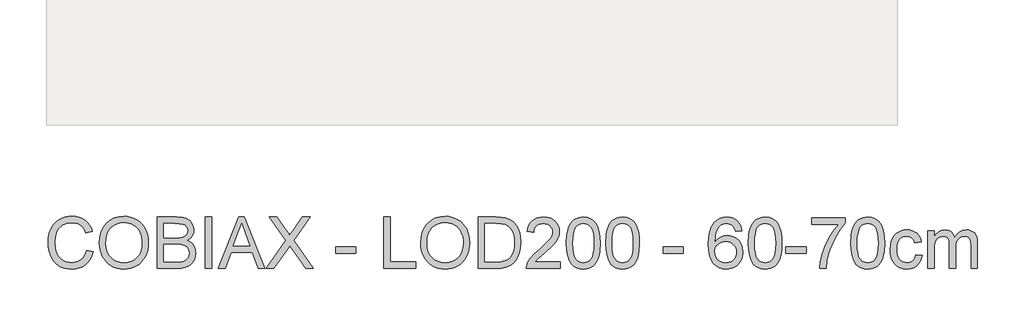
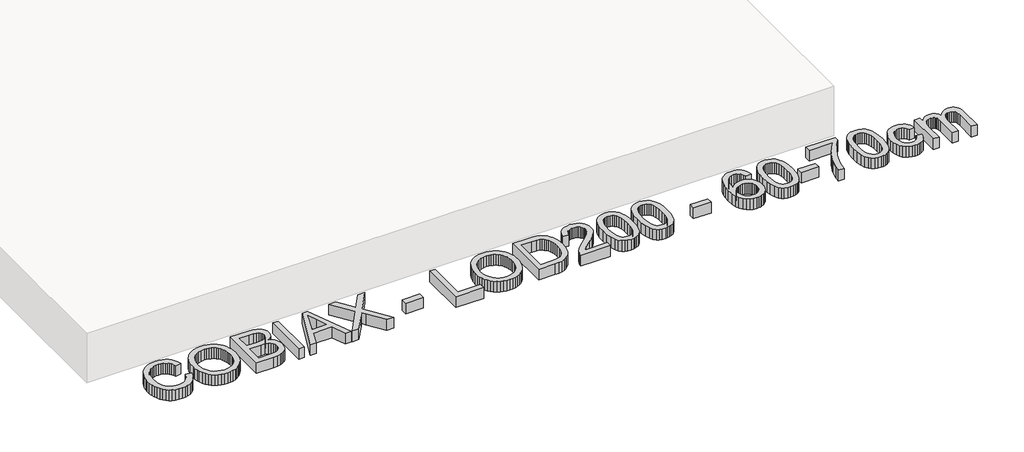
# One storey, part 6 of 6: 1 proxy.
"""IFC4 building model written with IfcOpenShell, lengths in millimetres."""

from ifc_helpers import new_model, si_unit, origin, origin_with_axes, place, context, project, spatial, polyline, outline, extrude, element, save

model = new_model("IFC4")

# Units and contexts
model_context = context("Model", 3, world=origin())
ifc_project = project(units=[si_unit("LENGTHUNIT", "METRE", prefix="MILLI")], contexts=[model_context])

# Site, building, storey
site = spatial("IfcSite", under=ifc_project)
building = spatial("IfcBuilding", under=site)
storey = spatial("IfcBuildingStorey", under=building, Name="COBIAX Slabs", Elevation=0.0)

# Proxy
placement = place(None, origin())
element("IfcBuildingElementProxy", 1, Name="600mm Arial", ObjectType="600mm Arial", at=placement, inside=storey, context=model_context, shape_type="SweptSolid", body=[
    extrude(outline(polyline([(54798.2153953, -6620.9127725), (54873.5576279, -6640.3369419), (54858.64921, -6687.1913125), (54838.7927794, -6728.13198), (54813.9883358, -6763.1589445), (54784.2358795, -6792.2722059), (54750.2067949, -6815.1590645), (54712.5724668, -6831.5068207), (54671.3328952, -6841.3154744), (54626.4880799, -6844.5850256), (54580.5442173, -6842.1110192), (54539.097712, -6834.6889999), (54502.1485641, -6822.3189678), (54469.6967736, -6805.0009229), (54441.2962836, -6782.9923826), (54416.5010371, -6756.5508642), (54395.3110342, -6725.6763677), (54377.7262748, -6690.3688932), (54363.9169044, -6652.155151), (54354.0530684, -6612.5618512), (54348.1347668, -6571.588994), (54346.1619996, -6529.2365793), (54348.3922842, -6483.7939559), (54355.083138, -6441.3495707), (54366.234561, -6401.9034238), (54381.8465531, -6365.4555151), (54401.5696266, -6332.6082514), (54425.0542935, -6303.9640396), (54452.3005538, -6279.5228795), (54483.3084074, -6259.2847713), (54517.0247923, -6243.4152617), (54552.3966461, -6232.0798977), (54589.4239689, -6225.2786793), (54628.1067607, -6223.0116065), (54671.1995379, -6225.9454655), (54710.7146627, -6234.7470422), (54746.6521351, -6249.4163368), (54779.0119551, -6269.9533491), (54807.2606938, -6295.8154534), (54830.8649224, -6326.4600236), (54849.8246407, -6361.8870597), (54864.1398488, -6402.0965618), (54788.7976162, -6420.0492032), (54776.9334219, -6390.420907), (54762.6779946, -6365.1060272), (54746.0313343, -6344.1045638), (54726.993441, -6327.4165168), (54705.4539502, -6314.7015953), (54681.3024972, -6305.6195086), (54654.5390821, -6300.1702565), (54625.1637048, -6298.3538392), (54591.3645465, -6300.3679931), (54560.4532618, -6306.4104549), (54532.4298508, -6316.4812245), (54507.2943135, -6330.5803019), (54485.3639481, -6348.0730908), (54466.9560527, -6368.3249946), (54452.0706275, -6391.3360134), (54440.7076724, -6417.1061472), (54426.3050923, -6472.2516583), (54421.5042322, -6529.0894265), (54427.1880091, -6598.6927), (54434.2927301, -6629.9626696), (54444.2393395, -6658.8781944), (54457.1887858, -6684.8644589), (54473.3020171, -6707.3466473), (54492.5790337, -6726.3247597), (54515.0198354, -6741.7987961), (54539.5345719, -6753.8055448), (54565.0333926, -6762.3817938), (54591.5162978, -6767.5275432), (54618.9832872, -6769.242793), (54651.7385804, -6766.9067423), (54681.8727143, -6759.8985903), (54709.385689, -6748.218337), (54734.2775045, -6731.8659823), (54755.9595496, -6710.9151027), (54773.8432131, -6685.4392745), (54787.928495, -6655.4384978), (54798.2153953, -6620.9127725)])), origin_with_axes(), (0.0, 0.0, 1.0), 150.0),
    extrude(outline(polyline([(54948.8998605, -6541.7445672), (54953.9214497, -6471.0468447), (54968.9862175, -6408.4609203), (54994.0941636, -6353.9867939), (55010.4143286, -6329.7916549), (55029.2452883, -6307.6244654), (55072.3334669, -6270.6063397), (55121.2525753, -6244.1648213), (55176.0026132, -6228.2999102), (55236.5835807, -6223.0116065), (55277.1333737, -6225.49481), (55315.6414215, -6232.9444204), (55352.1077243, -6245.3604378), (55386.532282, -6262.742862), (55417.9494044, -6284.5674614), (55445.3934012, -6310.310004), (55468.8642725, -6339.9704899), (55488.3620182, -6373.548919), (55503.6843033, -6410.2819362), (55514.6287927, -6449.4061864), (55521.1954863, -6490.9216695), (55523.3843842, -6534.8283857), (55521.0805232, -6579.3145159), (55514.1689402, -6621.3910191), (55502.6496352, -6661.0578953), (55486.5226083, -6698.3151443), (55466.1695369, -6732.178682), (55441.9720986, -6761.6644239), (55413.9302936, -6786.7723701), (55382.0441216, -6807.5025205), (55347.5689802, -6823.7261165), (55311.7602665, -6835.3143993), (55274.6179805, -6842.267369), (55236.1421223, -6844.5850256), (55194.8841566, -6842.0236472), (55155.870271, -6834.339512), (55119.1004656, -6821.5326201), (55084.5747403, -6803.6029713), (55053.1944061, -6781.2449431), (55025.8607739, -6755.1529126), (55002.5738436, -6725.3268798), (54983.3336153, -6691.7668448), (54968.2688476, -6655.8201753), (54957.5082992, -6618.8342393), (54951.0519702, -6580.8090365), (54948.8998605, -6541.7445672)]), holes=[polyline([(55024.2420931, -6542.4803312), (55028.0082851, -6592.4295091), (55039.3068608, -6636.7684865), (55058.1378205, -6675.4972636), (55084.5011639, -6708.6158402), (55116.5482842, -6735.140132), (55152.4305743, -6754.0860548), (55192.1480343, -6765.4536084), (55235.700664, -6769.242793), (55279.9982547, -6765.4168202), (55320.1847641, -6753.938902), (55356.2601923, -6734.8090382), (55388.2245392, -6708.027229), (55414.3947446, -6674.2096766), (55433.0877485, -6633.9725834), (55444.3035508, -6587.3159493), (55448.0421516, -6534.2397745), (55446.4418649, -6499.7600345), (55441.6410049, -6467.5427687), (55433.6395715, -6437.5879773), (55422.4375647, -6409.8956601), (55408.1591448, -6384.8291007), (55390.9284718, -6362.7515824), (55370.7455459, -6343.6631054), (55347.6103669, -6327.5636696), (55322.2403048, -6314.7843688), (55295.3527295, -6305.6562968), (55266.9476409, -6300.1794536), (55237.0250391, -6298.3538392), (55194.9853241, -6301.8717107), (55155.9806356, -6312.4253255), (55120.0109735, -6330.0146834), (55087.0763379, -6354.6397844), (55059.5863558, -6387.4870481), (55039.9506543, -6429.7428937), (55028.1692334, -6481.4073214), (55024.2420931, -6542.4803312)])]), origin_with_axes(), (0.0, 0.0, 1.0), 150.0),
    extrude(outline(polyline([(55626.979954, -6835.1672465), (55626.979954, -6232.4293856), (55856.9797774, -6232.4293856), (55920.2370865, -6236.8623637), (55969.6252443, -6250.1612978), (55989.7024042, -6260.2182718), (56007.4803016, -6272.6572818), (56022.9589366, -6287.4783277), (56036.1383091, -6304.6814095), (56054.1829209, -6342.3525258), (56060.1977915, -6381.7894757), (56055.1394141, -6418.0810345), (56039.9642818, -6452.2020895), (56014.56203, -6482.0557135), (55978.8222942, -6505.5449788), (56001.562, -6515.2386694), (56021.5149998, -6527.8386278), (56038.6812934, -6543.3448538), (56053.0608808, -6561.7573477), (56064.423836, -6582.5150893), (56072.5402325, -6605.0570585), (56077.4100704, -6629.3832555), (56079.0333497, -6655.4936801), (56074.6003717, -6697.524198), (56061.3014375, -6736.5012954), (56041.4542039, -6769.6474632), (56017.3763273, -6794.1851923), (55987.8905854, -6811.9538926), (55951.8197558, -6824.7929743), (55907.986616, -6832.5736785), (55855.2139438, -6835.1672465), (55626.979954, -6835.1672465)]), holes=[polyline([(55702.3221866, -6477.2916416), (55839.9100528, -6477.2916416), (55888.0290178, -6475.6729608), (55920.2554806, -6470.8169185), (55948.3800591, -6459.6516999), (55968.5951747, -6442.9314633), (55980.7904629, -6420.9137259), (55984.8555589, -6393.8560051), (55981.0663744, -6367.5892307), (55969.6988207, -6344.7069706), (55951.2679328, -6326.8462997), (55926.2887453, -6315.6442929), (55887.9554414, -6309.7397869), (55829.4622042, -6307.7716182), (55702.3221866, -6307.7716182), (55702.3221866, -6477.2916416)]), polyline([(55702.3221866, -6759.8250139), (55856.8326246, -6759.8250139), (55912.7506879, -6756.8819579), (55938.7047626, -6750.3520525), (55960.0603125, -6740.474421), (55977.4243426, -6726.3293583), (55991.4038584, -6706.9971594), (56000.6193024, -6683.3423471), (56003.6911171, -6656.2294441), (56000.0858735, -6624.7387453), (55989.2701429, -6597.6626304), (55970.3794024, -6576.4910216), (55942.5491295, -6562.7138409), (55903.1305737, -6555.1538659), (55849.4749847, -6552.6338742), (55702.3221866, -6552.6338742), (55702.3221866, -6759.8250139)])]), origin_with_axes(), (0.0, 0.0, 1.0), 150.0),
    extrude(outline(polyline([(56192.0466986, -6835.1672465), (56192.0466986, -6232.4293856), (56267.3889312, -6232.4293856), (56267.3889312, -6835.1672465), (56192.0466986, -6835.1672465)])), origin_with_axes(), (0.0, 0.0, 1.0), 150.0),
    extrude(outline(polyline([(56347.8815118, -6835.1672465), (56588.4763366, -6232.4293856), (56652.6349566, -6232.4293856), (56893.2297814, -6835.1672465), (56813.6201177, -6835.1672465), (56744.6054554, -6646.811665), (56496.358685, -6646.811665), (56427.4911755, -6835.1672465), (56347.8815118, -6835.1672465)]), holes=[polyline([(56524.0234111, -6571.4694324), (56717.0878821, -6571.4694324), (56662.7884996, -6423.2865647), (56620.5556466, -6307.7716182), (56583.0316831, -6410.3371185), (56524.0234111, -6571.4694324)])]), origin_with_axes(), (0.0, 0.0, 1.0), 150.0),
    extrude(outline(polyline([(56907.7979084, -6835.1672465), (57140.1521766, -6506.7222012), (56945.4690247, -6232.4293856), (57035.8208428, -6232.4293856), (57145.4496773, -6386.7926708), (57171.6060872, -6425.8985269), (57182.3850296, -6446.9781652), (57225.6479523, -6385.7626012), (57334.0995644, -6232.4293856), (57425.7757576, -6232.4293856), (57231.0926058, -6507.605118), (57463.4468739, -6835.1672465), (57373.0950559, -6835.1672465), (57218.2903124, -6616.7924942), (57186.0638496, -6571.4694324), (57150.6000252, -6621.2070781), (56999.4741016, -6835.1672465), (56907.7979084, -6835.1672465)])), origin_with_axes(), (0.0, 0.0, 1.0), 150.0),
    extrude(outline(polyline([(57727.1446881, -6656.2294441), (57727.1446881, -6580.8872115), (57962.589165, -6580.8872115), (57962.589165, -6656.2294441), (57727.1446881, -6656.2294441)])), origin_with_axes(), (0.0, 0.0, 1.0), 150.0),
    extrude(outline(polyline([(58292.2114327, -6835.1672465), (58292.2114327, -6232.4293856), (58367.5536653, -6232.4293856), (58367.5536653, -6759.8250139), (58668.9225957, -6759.8250139), (58668.9225957, -6835.1672465), (58292.2114327, -6835.1672465)])), origin_with_axes(), (0.0, 0.0, 1.0), 150.0),
    extrude(outline(polyline([(58725.4292702, -6541.7445672), (58730.4508594, -6471.0468447), (58745.5156271, -6408.4609203), (58770.6235733, -6353.9867939), (58786.9437383, -6329.7916549), (58805.7746979, -6307.6244654), (58848.8628766, -6270.6063397), (58897.7819849, -6244.1648213), (58952.5320229, -6228.2999102), (59013.1129904, -6223.0116065), (59053.6627833, -6225.49481), (59092.1708312, -6232.9444204), (59128.637134, -6245.3604378), (59163.0616917, -6262.742862), (59194.4788141, -6284.5674614), (59221.9228109, -6310.310004), (59245.3936822, -6339.9704899), (59264.8914279, -6373.548919), (59280.213713, -6410.2819362), (59291.1582024, -6449.4061864), (59297.724896, -6490.9216695), (59299.9137939, -6534.8283857), (59297.6099329, -6579.3145159), (59290.6983499, -6621.3910191), (59279.1790449, -6661.0578953), (59263.052018, -6698.3151443), (59242.6989466, -6732.178682), (59218.5015083, -6761.6644239), (59190.4597033, -6786.7723701), (59158.5735313, -6807.5025205), (59124.0983898, -6823.7261165), (59088.2896761, -6835.3143993), (59051.1473902, -6842.267369), (59012.671532, -6844.5850256), (58971.4135663, -6842.0236472), (58932.3996807, -6834.339512), (58895.6298753, -6821.5326201), (58861.10415, -6803.6029713), (58829.7238158, -6781.2449431), (58802.3901836, -6755.1529126), (58779.1032533, -6725.3268798), (58759.8630249, -6691.7668448), (58744.7982572, -6655.8201753), (58734.0377089, -6618.8342393), (58727.5813799, -6580.8090365), (58725.4292702, -6541.7445672)]), holes=[polyline([(58800.7715028, -6542.4803312), (58804.5376947, -6592.4295091), (58815.8362705, -6636.7684865), (58834.6672301, -6675.4972636), (58861.0305736, -6708.6158402), (58893.0776939, -6735.140132), (58928.959984, -6754.0860548), (58968.6774439, -6765.4536084), (59012.2300736, -6769.242793), (59056.5276644, -6765.4168202), (59096.7141738, -6753.938902), (59132.789602, -6734.8090382), (59164.7539488, -6708.027229), (59190.9241543, -6674.2096766), (59209.6171582, -6633.9725834), (59220.8329605, -6587.3159493), (59224.5715613, -6534.2397745), (59222.9712746, -6499.7600345), (59218.1704145, -6467.5427687), (59210.1689811, -6437.5879773), (59198.9669744, -6409.8956601), (59184.6885545, -6384.8291007), (59167.4578815, -6362.7515824), (59147.2749555, -6343.6631054), (59124.1397766, -6327.5636696), (59098.7697145, -6314.7843688), (59071.8821392, -6305.6562968), (59043.4770506, -6300.1794536), (59013.5544488, -6298.3538392), (58971.5147338, -6301.8717107), (58932.5100453, -6312.4253255), (58896.5403832, -6330.0146834), (58863.6057476, -6354.6397844), (58836.1157655, -6387.4870481), (58816.480064, -6429.7428937), (58804.6986431, -6481.4073214), (58800.7715028, -6542.4803312)])]), origin_with_axes(), (0.0, 0.0, 1.0), 150.0),
    extrude(outline(polyline([(59403.5093637, -6835.1672465), (59403.5093637, -6232.4293856), (59611.4362674, -6232.4293856), (59673.5715364, -6234.5998894), (59719.0049628, -6241.1114007), (59767.0503513, -6257.8500315), (59807.5909472, -6284.2271705), (59829.9305814, -6305.7850555), (59849.2719773, -6330.1388435), (59865.6151349, -6357.2885348), (59878.9600543, -6387.2341292), (59889.3251295, -6419.6997153), (59896.7287546, -6454.4093815), (59902.6516548, -6530.5609545), (59898.641741, -6595.2530034), (59886.6119998, -6652.1827421), (59868.2914764, -6700.651195), (59845.4092163, -6739.9593862), (59819.0688655, -6770.9902325), (59790.3740698, -6794.6266507), (59757.4302372, -6812.1562277), (59718.3427752, -6824.8665507), (59673.0381075, -6832.5920726), (59621.4426577, -6835.1672465), (59403.5093637, -6835.1672465)]), holes=[polyline([(59478.8515963, -6759.8250139), (59612.1720314, -6759.8250139), (59667.3175425, -6757.1026871), (59709.1457253, -6748.9357069), (59740.7100005, -6735.8023196), (59765.0637886, -6718.1807721), (59791.2385925, -6685.5680332), (59810.9018852, -6643.3535742), (59823.2075379, -6591.3534542), (59827.3094222, -6529.3837321), (59825.2998668, -6485.6425629), (59819.2712006, -6447.2724708), (59809.2234236, -6414.2734558), (59795.1565358, -6386.645518), (59778.2109714, -6363.7632579), (59759.5271645, -6345.0012761), (59739.1051153, -6330.3595727), (59716.9448236, -6319.8381477), (59673.6083246, -6310.7882506), (59610.1118922, -6307.7716182), (59478.8515963, -6307.7716182), (59478.8515963, -6759.8250139)])]), origin_with_axes(), (0.0, 0.0, 1.0), 150.0),
    extrude(outline(polyline([(60364.1228295, -6759.8250139), (60364.1228295, -6835.1672465), (59968.5761083, -6835.1672465), (59970.2315773, -6808.6429547), (59976.6695122, -6783.2223088), (59995.247553, -6742.6265306), (60022.4340324, -6703.2447631), (60061.7606177, -6662.0235855), (60116.758976, -6615.9095774), (60198.0608969, -6543.6943417), (60246.8420495, -6490.3882406), (60261.0698856, -6468.6096265), (60271.2326257, -6447.125318), (60277.3302698, -6425.9353151), (60279.3628178, -6405.0396178), (60277.4452329, -6385.3809236), (60271.6924782, -6367.3133192), (60262.1045537, -6350.8368043), (60248.6814594, -6335.9513791), (60232.1681564, -6323.6227337), (60213.3096056, -6314.8165584), (60192.1058071, -6309.5328533), (60168.5567609, -6307.7716182), (60143.7477188, -6309.4914666), (60121.559836, -6314.6510115), (60101.9931124, -6323.2502532), (60085.047548, -6335.2891915), (60071.3393451, -6350.3631562), (60061.4847062, -6368.0674772), (60055.4836311, -6388.4021545), (60053.33612, -6411.3671881), (59977.9938874, -6401.949409), (59984.473209, -6363.0550851), (59996.2592284, -6329.0719858), (60013.3519456, -6300.0001111), (60035.7513606, -6275.8394611), (60062.9424386, -6256.8475531), (60094.4101448, -6243.2819045), (60130.1544791, -6235.1425153), (60170.1754417, -6232.4293856), (60210.5550892, -6235.446018), (60246.4925616, -6244.4959151), (60277.9878589, -6259.5790769), (60305.0409811, -6280.6955034), (60326.7690114, -6306.2816962), (60342.2890331, -6334.7741567), (60351.6010461, -6366.172885), (60354.7050504, -6400.477881), (60351.3573243, -6436.5119224), (60341.3141458, -6471.9205645), (60323.4902631, -6507.9362118), (60296.8004244, -6545.7912691), (60254.2548717, -6590.9855722), (60188.863847, -6649.018957), (60102.190849, -6721.49171), (60068.1985526, -6759.8250139), (60364.1228295, -6759.8250139)])), origin_with_axes(), (0.0, 0.0, 1.0), 150.0),
    extrude(outline(polyline([(60439.4650621, -6538.6543584), (60445.0016862, -6442.1773052), (60451.9224662, -6401.2642288), (60461.6115582, -6365.2347859), (60474.0275756, -6333.7946709), (60489.1291315, -6306.6495782), (60506.9162259, -6283.7995077), (60527.388859, -6265.2444596), (60550.6160084, -6250.8878647), (60576.6666522, -6240.6331541), (60605.5407903, -6234.4803277), (60637.2384227, -6232.4293856), (60683.6651305, -6237.285428), (60725.235796, -6251.853555), (60760.0006445, -6275.5635496), (60786.0099016, -6307.8451946), (60805.6548001, -6348.4225787), (60821.3265731, -6397.0197903), (60831.5904808, -6458.731995), (60835.0117833, -6538.6543584), (60829.5303416, -6634.5795887), (60822.6785395, -6675.3547093), (60813.0860164, -6711.3381669), (60800.7665681, -6742.7920775), (60785.7339901, -6769.978557), (60767.9882823, -6792.8976053), (60747.5294449, -6811.5492224), (60724.2747043, -6826.0023863), (60698.141287, -6836.3260748), (60669.1291932, -6842.5202879), (60637.2384227, -6844.5850256), (60595.7413337, -6840.9981761), (60558.9531342, -6830.2376278), (60526.8738242, -6812.3033805), (60499.5034037, -6787.1954344), (60473.2366293, -6741.8079932), (60454.4746475, -6685.2553335), (60443.2174585, -6617.5374552), (60439.4650621, -6538.6543584)]), holes=[polyline([(60514.8072947, -6538.5072056), (60517.0145867, -6604.0039963), (60523.6364626, -6657.0203904), (60534.6729225, -6697.5563877), (60550.1239663, -6725.6119884), (60568.8123716, -6744.7004654), (60589.5609162, -6758.3350918), (60612.3695999, -6766.5158677), (60637.2384227, -6769.242793), (60662.1072456, -6766.5066706), (60684.9159293, -6758.2983036), (60705.6644738, -6744.6176919), (60724.3528792, -6725.4648356), (60739.803923, -6697.3632497), (60750.8403828, -6656.8364494), (60757.4622588, -6603.8844347), (60759.6695507, -6538.5072056), (60757.5358352, -6474.7440588), (60751.1346884, -6422.6611653), (60740.4661106, -6382.2585252), (60725.5301016, -6353.5361384), (60707.1543959, -6333.5141609), (60686.1667281, -6319.2127483), (60662.5670981, -6310.6319008), (60636.3555059, -6307.7716182), (60611.6154418, -6310.2916099), (60589.1930342, -6317.8515849), (60569.0882831, -6330.4515432), (60551.3011887, -6348.0914849), (60535.3351101, -6379.3614545), (60523.9307682, -6421.5207311), (60517.0881631, -6474.5693149), (60514.8072947, -6538.5072056)])]), origin_with_axes(), (0.0, 0.0, 1.0), 150.0),
    extrude(outline(polyline([(60900.9362369, -6538.6543584), (60906.4728609, -6442.1773052), (60913.3936409, -6401.2642288), (60923.082733, -6365.2347859), (60935.4987503, -6333.7946709), (60950.6003062, -6306.6495782), (60968.3874007, -6283.7995077), (60988.8600337, -6265.2444596), (61012.0871832, -6250.8878647), (61038.137827, -6240.6331541), (61067.0119651, -6234.4803277), (61098.7095975, -6232.4293856), (61145.1363053, -6237.285428), (61186.7069707, -6251.853555), (61221.4718193, -6275.5635496), (61247.4810763, -6307.8451946), (61267.1259749, -6348.4225787), (61282.7977479, -6397.0197903), (61293.0616555, -6458.731995), (61296.4829581, -6538.6543584), (61291.0015164, -6634.5795887), (61284.1497142, -6675.3547093), (61274.5571912, -6711.3381669), (61262.2377429, -6742.7920775), (61247.2051648, -6769.978557), (61229.4594571, -6792.8976053), (61209.0006196, -6811.5492224), (61185.745879, -6826.0023863), (61159.6124618, -6836.3260748), (61130.6003679, -6842.5202879), (61098.7095975, -6844.5850256), (61057.2125084, -6840.9981761), (61020.4243089, -6830.2376278), (60988.3449989, -6812.3033805), (60960.9745785, -6787.1954344), (60934.707804, -6741.8079932), (60915.9458223, -6685.2553335), (60904.6886332, -6617.5374552), (60900.9362369, -6538.6543584)]), holes=[polyline([(60976.2784695, -6538.5072056), (60978.4857615, -6604.0039963), (60985.1076374, -6657.0203904), (60996.1440972, -6697.5563877), (61011.595141, -6725.6119884), (61030.2835464, -6744.7004654), (61051.0320909, -6758.3350918), (61073.8407746, -6766.5158677), (61098.7095975, -6769.242793), (61123.5784204, -6766.5066706), (61146.3871041, -6758.2983036), (61167.1356486, -6744.6176919), (61185.8240539, -6725.4648356), (61201.2750977, -6697.3632497), (61212.3115576, -6656.8364494), (61218.9334335, -6603.8844347), (61221.1407255, -6538.5072056), (61219.0070099, -6474.7440588), (61212.6058632, -6422.6611653), (61201.9372853, -6382.2585252), (61187.0012763, -6353.5361384), (61168.6255707, -6333.5141609), (61147.6379028, -6319.2127483), (61124.0382729, -6310.6319008), (61097.8266807, -6307.7716182), (61073.0866165, -6310.2916099), (61050.6642089, -6317.8515849), (61030.5594579, -6330.4515432), (61012.7723634, -6348.0914849), (60996.8062848, -6379.3614545), (60985.401943, -6421.5207311), (60978.5593379, -6474.5693149), (60976.2784695, -6538.5072056)])]), origin_with_axes(), (0.0, 0.0, 1.0), 150.0),
    extrude(outline(polyline([(61579.0163304, -6656.2294441), (61579.0163304, -6580.8872115), (61814.4608073, -6580.8872115), (61814.4608073, -6656.2294441), (61579.0163304, -6656.2294441)])), origin_with_axes(), (0.0, 0.0, 1.0), 150.0),
    extrude(outline(polyline([(62501.9586799, -6392.5316299), (62426.6164473, -6401.949409), (62414.4763414, -6364.6093865), (62398.0688045, -6339.1151642), (62381.8727996, -6325.4023629), (62363.8925671, -6315.6075047), (62344.1281069, -6309.7305899), (62322.579419, -6307.7716182), (62287.5570531, -6312.333355), (62254.5948263, -6326.0185652), (62226.2863068, -6354.8421195), (62203.1649234, -6394.5181927), (62194.1288219, -6419.8238754), (62187.5483327, -6450.6385911), (62181.7541913, -6528.7951209), (62211.9756972, -6493.5336317), (62248.1936796, -6468.6832029), (62288.3847876, -6453.949529), (62330.5256701, -6449.0383044), (62366.7252585, -6452.3952276), (62400.1289436, -6462.4659972), (62430.7367256, -6479.2506132), (62458.5486045, -6502.7490757), (62481.6607908, -6531.563433), (62498.1694953, -6564.2957335), (62508.0747181, -6600.9459772), (62511.376459, -6641.5141643), (62509.8221575, -6668.9811537), (62505.1592532, -6695.4640589), (62497.3877461, -6720.9628796), (62486.5076361, -6745.4776161), (62472.9051993, -6768.0931618), (62456.9667119, -6787.8944101), (62438.6921738, -6804.8813613), (62418.081585, -6819.0540151), (62395.5764039, -6830.2238322), (62371.618089, -6838.202273), (62346.2066402, -6842.9893374), (62319.3420575, -6844.5850256), (62274.4282644, -6840.3543827), (62233.8646759, -6827.6624538), (62197.651292, -6806.5092391), (62165.7881127, -6776.8947385), (62139.8110453, -6737.5681532), (62121.2559972, -6687.2786845), (62110.1229683, -6626.0263323), (62106.4119587, -6553.8110966), (62110.532237, -6472.8494665), (62122.8930721, -6403.7520308), (62143.4944638, -6346.5187894), (62156.8853684, -6322.3512416), (62172.3364122, -6301.1497423), (62203.5971847, -6271.0845863), (62239.8427583, -6249.6094748), (62281.0731329, -6236.7244079), (62327.2883086, -6232.4293856), (62361.9887778, -6235.087333), (62393.3967031, -6243.0611753), (62421.5120846, -6256.3509124), (62446.3349222, -6274.9565443), (62467.1938313, -6298.2526716), (62483.4174273, -6325.613895), (62495.0057102, -6357.0402144), (62501.9586799, -6392.5316299)]), holes=[polyline([(62181.7541913, -6640.3369419), (62186.1135929, -6673.7222329), (62199.1917979, -6705.5992078), (62219.498884, -6733.0064165), (62245.5449292, -6752.9824088), (62276.9804457, -6765.1776969), (62313.4559456, -6769.242793), (62339.6445451, -6767.1366686), (62363.1751972, -6760.8182953), (62384.0479019, -6750.2876732), (62402.2626592, -6735.5448022), (62417.0377198, -6717.1874907), (62427.5913346, -6695.8135468), (62433.9235034, -6671.4229705), (62436.0342264, -6644.0157618), (62433.9510946, -6617.6800095), (62427.7016992, -6594.2965102), (62417.2860402, -6573.8652639), (62402.7041176, -6556.3862706), (62384.434178, -6542.3837621), (62362.954468, -6532.3819704), (62338.2649876, -6526.3808953), (62310.3657368, -6524.380537), (62284.5266252, -6526.3808953), (62260.7200616, -6532.3819704), (62238.946046, -6542.3837621), (62219.2045784, -6556.3862706), (62202.820034, -6573.6353376), (62191.1167881, -6593.3768052), (62184.0948405, -6615.6106733), (62181.7541913, -6640.3369419)])]), origin_with_axes(), (0.0, 0.0, 1.0), 150.0),
    extrude(outline(polyline([(62577.3009125, -6538.6543584), (62582.8375365, -6442.1773052), (62589.7583166, -6401.2642288), (62599.4474086, -6365.2347859), (62611.8634259, -6333.7946709), (62626.9649818, -6306.6495782), (62644.7520763, -6283.7995077), (62665.2247093, -6265.2444596), (62688.4518588, -6250.8878647), (62714.5025026, -6240.6331541), (62743.3766407, -6234.4803277), (62775.0742731, -6232.4293856), (62821.5009809, -6237.285428), (62863.0716464, -6251.853555), (62897.8364949, -6275.5635496), (62923.845752, -6307.8451946), (62943.4906505, -6348.4225787), (62959.1624235, -6397.0197903), (62969.4263312, -6458.731995), (62972.8476337, -6538.6543584), (62967.366192, -6634.5795887), (62960.5143898, -6675.3547093), (62950.9218668, -6711.3381669), (62938.6024185, -6742.7920775), (62923.5698405, -6769.978557), (62905.8241327, -6792.8976053), (62885.3652953, -6811.5492224), (62862.1105546, -6826.0023863), (62835.9771374, -6836.3260748), (62806.9650436, -6842.5202879), (62775.0742731, -6844.5850256), (62733.5771841, -6840.9981761), (62696.7889845, -6830.2376278), (62664.7096746, -6812.3033805), (62637.3392541, -6787.1954344), (62611.0724797, -6741.8079932), (62592.3104979, -6685.2553335), (62581.0533089, -6617.5374552), (62577.3009125, -6538.6543584)]), holes=[polyline([(62652.6431451, -6538.5072056), (62654.8504371, -6604.0039963), (62661.472313, -6657.0203904), (62672.5087729, -6697.5563877), (62687.9598166, -6725.6119884), (62706.648222, -6744.7004654), (62727.3967665, -6758.3350918), (62750.2054502, -6766.5158677), (62775.0742731, -6769.242793), (62799.943096, -6766.5066706), (62822.7517797, -6758.2983036), (62843.5003242, -6744.6176919), (62862.1887296, -6725.4648356), (62877.6397734, -6697.3632497), (62888.6762332, -6656.8364494), (62895.2981091, -6603.8844347), (62897.5054011, -6538.5072056), (62895.3716855, -6474.7440588), (62888.9705388, -6422.6611653), (62878.301961, -6382.2585252), (62863.3659519, -6353.5361384), (62844.9902463, -6333.5141609), (62824.0025785, -6319.2127483), (62800.4029485, -6310.6319008), (62774.1913563, -6307.7716182), (62749.4512921, -6310.2916099), (62727.0288845, -6317.8515849), (62706.9241335, -6330.4515432), (62689.137039, -6348.0914849), (62673.1709604, -6379.3614545), (62661.7666186, -6421.5207311), (62654.9240135, -6474.5693149), (62652.6431451, -6538.5072056)])]), origin_with_axes(), (0.0, 0.0, 1.0), 150.0),
    extrude(outline(polyline([(63019.9365291, -6656.2294441), (63019.9365291, -6580.8872115), (63255.381006, -6580.8872115), (63255.381006, -6656.2294441), (63019.9365291, -6656.2294441)])), origin_with_axes(), (0.0, 0.0, 1.0), 150.0),
    extrude(outline(polyline([(63321.3054595, -6317.1893973), (63321.3054595, -6241.8471647), (63716.8521808, -6241.8471647), (63716.8521808, -6302.7684231), (63660.474265, -6374.1191361), (63604.6481722, -6464.8572302), (63555.4071672, -6566.7053605), (63535.5185468, -6618.691685), (63518.7845146, -6671.3861823), (63500.8318732, -6749.708259), (63490.8254829, -6835.1672465), (63415.4832503, -6835.1672465), (63423.6318365, -6757.5073573), (63445.4288447, -6665.2057648), (63461.2983543, -6615.8405995), (63480.2856638, -6567.3675481), (63502.3907731, -6519.7866106), (63527.6136824, -6473.0977869), (63582.8695581, -6387.8779227), (63641.5099481, -6317.1893973), (63321.3054595, -6317.1893973)])), origin_with_axes(), (0.0, 0.0, 1.0), 150.0),
    extrude(outline(polyline([(63782.7766343, -6538.6543584), (63788.3132583, -6442.1773052), (63795.2340384, -6401.2642288), (63804.9231304, -6365.2347859), (63817.3391477, -6333.7946709), (63832.4407036, -6306.6495782), (63850.2277981, -6283.7995077), (63870.7004311, -6265.2444596), (63893.9275806, -6250.8878647), (63919.9782244, -6240.6331541), (63948.8523625, -6234.4803277), (63980.5499949, -6232.4293856), (64026.9767027, -6237.285428), (64068.5473681, -6251.853555), (64103.3122167, -6275.5635496), (64129.3214738, -6307.8451946), (64148.9663723, -6348.4225787), (64164.6381453, -6397.0197903), (64174.902053, -6458.731995), (64178.3233555, -6538.6543584), (64172.8419138, -6634.5795887), (64165.9901116, -6675.3547093), (64156.3975886, -6711.3381669), (64144.0781403, -6742.7920775), (64129.0455623, -6769.978557), (64111.2998545, -6792.8976053), (64090.8410171, -6811.5492224), (64067.5862764, -6826.0023863), (64041.4528592, -6836.3260748), (64012.4407654, -6842.5202879), (63980.5499949, -6844.5850256), (63939.0529058, -6840.9981761), (63902.2647063, -6830.2376278), (63870.1853963, -6812.3033805), (63842.8149759, -6787.1954344), (63816.5482015, -6741.8079932), (63797.7862197, -6685.2553335), (63786.5290306, -6617.5374552), (63782.7766343, -6538.6543584)]), holes=[polyline([(63858.1188669, -6538.5072056), (63860.3261589, -6604.0039963), (63866.9480348, -6657.0203904), (63877.9844946, -6697.5563877), (63893.4355384, -6725.6119884), (63912.1239438, -6744.7004654), (63932.8724883, -6758.3350918), (63955.681172, -6766.5158677), (63980.5499949, -6769.242793), (64005.4188178, -6766.5066706), (64028.2275015, -6758.2983036), (64048.976046, -6744.6176919), (64067.6644514, -6725.4648356), (64083.1154952, -6697.3632497), (64094.151955, -6656.8364494), (64100.7738309, -6603.8844347), (64102.9811229, -6538.5072056), (64100.8474073, -6474.7440588), (64094.4462606, -6422.6611653), (64083.7776827, -6382.2585252), (64068.8416737, -6353.5361384), (64050.4659681, -6333.5141609), (64029.4783003, -6319.2127483), (64005.8786703, -6310.6319008), (63979.6670781, -6307.7716182), (63954.9270139, -6310.2916099), (63932.5046063, -6317.8515849), (63912.3998553, -6330.4515432), (63894.6127608, -6348.0914849), (63878.6466822, -6379.3614545), (63867.2423404, -6421.5207311), (63860.3997353, -6474.5693149), (63858.1188669, -6538.5072056)])]), origin_with_axes(), (0.0, 0.0, 1.0), 150.0),
    extrude(outline(polyline([(64545.6167395, -6675.0650022), (64620.9589721, -6684.4827813), (64612.7644007, -6720.0339776), (64599.9529102, -6751.4924867), (64582.5245007, -6778.8583086), (64560.4791721, -6802.1314434), (64534.7458265, -6820.7048856), (64506.253366, -6833.97163), (64475.0017905, -6841.9316767), (64440.9911001, -6844.5850256), (64398.7352544, -6840.883213), (64360.8480074, -6829.7777753), (64327.3293591, -6811.2687124), (64298.1793095, -6785.3560244), (64274.5842781, -6752.5271548), (64257.7306842, -6713.2695474), (64247.6185278, -6667.5832021), (64244.247809, -6615.468119), (64250.0051623, -6548.4216254), (64257.2018538, -6518.2507033), (64267.2772219, -6490.3146642), (64280.3002446, -6465.1745284), (64296.3398996, -6443.3913158), (64315.3961869, -6424.9650263), (64337.4691066, -6409.8956601), (64361.5607788, -6398.1786186), (64386.6733235, -6389.8093032), (64412.8067407, -6384.7877139), (64439.9610305, -6383.1138508), (64473.3877083, -6385.4131133), (64503.6230097, -6392.3109007), (64530.6669349, -6403.8072131), (64554.5194838, -6419.9020504), (64574.7759861, -6440.2275306), (64591.0317718, -6464.4157718), (64603.2868408, -6492.4667739), (64611.541193, -6524.380537), (64536.1989604, -6533.7983161), (64522.5321443, -6500.9280598), (64501.2501709, -6477.365218), (64473.5302625, -6463.1833671), (64440.5496417, -6458.4560835), (64414.9496533, -6460.7829371), (64391.8604596, -6467.7634979), (64371.2820605, -6479.397766), (64353.214456, -6495.6857414), (64338.5037747, -6517.004503), (64327.9961452, -6543.7311299), (64321.6915676, -6575.8656222), (64319.5900417, -6613.4079798), (64321.6455823, -6651.515956), (64327.8122042, -6684.0229288), (64338.0899075, -6710.9288982), (64352.478692, -6732.2338643), (64370.1876116, -6748.4252706), (64390.4257198, -6759.9905608), (64413.1930168, -6766.9297349), (64438.4895025, -6769.242793), (64477.5033881, -6763.4670457), (64494.3753761, -6756.2473615), (64509.4907276, -6746.1398037), (64522.4263782, -6733.0340076), (64532.7592638, -6716.8196087), (64540.4893842, -6697.4966069), (64545.6167395, -6675.0650022)])), origin_with_axes(), (0.0, 0.0, 1.0), 150.0),
    extrude(outline(polyline([(64686.8834256, -6835.1672465), (64686.8834256, -6392.5316299), (64762.2256583, -6392.5316299), (64762.2256583, -6465.372265), (64784.8871892, -6431.9133975), (64814.0234432, -6405.7018054), (64848.6411389, -6388.7608395), (64887.746995, -6383.1138508), (64929.6487543, -6388.8712041), (64947.481834, -6396.0678956), (64963.2363804, -6406.1432637), (64988.3259325, -6433.7895957), (65004.7334695, -6470.6697657), (65032.1958604, -6432.364053), (65063.5210123, -6405.0028296), (65098.7089251, -6388.5860955), (65137.7595989, -6383.1138508), (65167.921324, -6385.3901207), (65194.3950321, -6392.2189302), (65217.1807232, -6403.6002795), (65236.2783972, -6419.5341684), (65251.3753546, -6440.204538), (65262.1588956, -6465.7953293), (65268.6290202, -6496.3065422), (65270.7857284, -6531.7381769), (65270.7857284, -6835.1672465), (65195.4434958, -6835.1672465), (65195.4434958, -6564.1117925), (65193.6960563, -6526.5326467), (65188.4537379, -6501.2039713), (65178.6312886, -6483.8583352), (65163.1434566, -6470.2283073), (65143.2226466, -6461.3991394), (65120.1012632, -6458.4560835), (65098.7503119, -6460.3414787), (65079.2847558, -6465.9976644), (65061.704595, -6475.4246405), (65046.0098293, -6488.6224071), (65033.1017698, -6505.9772402), (65023.8817273, -6527.875416), (65018.3497018, -6554.3169344), (65016.5056933, -6585.3017954), (65016.5056933, -6835.1672465), (64941.1634607, -6835.1672465), (64941.1634607, -6555.724083), (64936.8040591, -6513.1233479), (64931.354807, -6496.4031113), (64923.7258541, -6482.7362951), (64913.6136978, -6472.1137025), (64900.7148353, -6464.5261364), (64885.0292668, -6459.9735967), (64866.5569921, -6458.4560835), (64837.5311027, -6462.5027854), (64810.7860816, -6474.6428912), (64788.7131619, -6494.5820954), (64773.7035765, -6522.0260922), (64765.0951378, -6560.1018787), (64762.2256583, -6611.9364518), (64762.2256583, -6835.1672465), (64686.8834256, -6835.1672465)])), origin_with_axes(), (0.0, 0.0, 1.0), 150.0),
])

save(model, "model.ifc")
